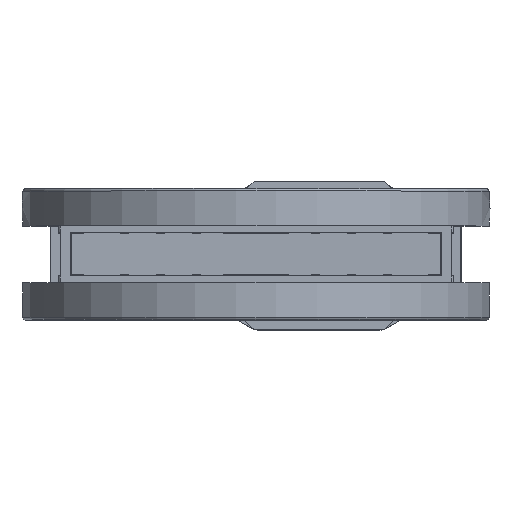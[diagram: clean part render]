
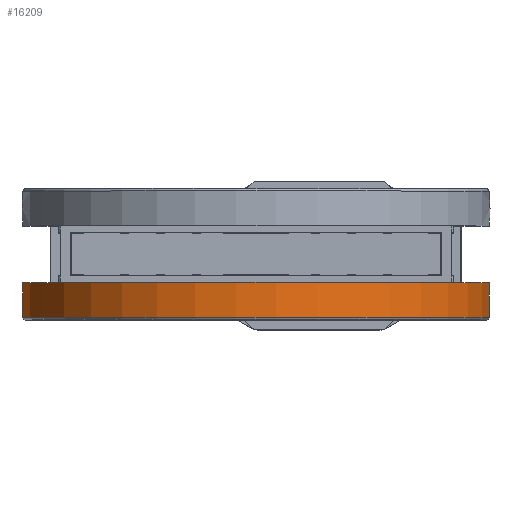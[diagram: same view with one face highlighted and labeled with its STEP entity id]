
A CAD part, top view. The second image highlights one B-rep face of the part: STEP entity #16209.
In plain terms, the highlighted cylindrical face has radius 142.5 mm (diameter 285 mm), a full revolution.
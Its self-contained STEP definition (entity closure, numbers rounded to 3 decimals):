
#16209=ADVANCED_FACE('BCT_REF_56374',(#17732,#17733),#17299,.T.);
#17299=CYLINDRICAL_SURFACE('',#37225,142.5);
#17732=FACE_BOUND('',#19321,.T.);
#17733=FACE_BOUND('',#19322,.T.);
#19321=EDGE_LOOP('',(#24243));
#19322=EDGE_LOOP('',(#24244));
#24243=ORIENTED_EDGE('',*,*,#33480,.F.);
#24244=ORIENTED_EDGE('',*,*,#33486,.T.);
#30050=VERTEX_POINT('',#50145);
#30056=VERTEX_POINT('',#50162);
#33480=EDGE_CURVE('',#30050,#30050,#35899,.T.);
#33486=EDGE_CURVE('',#30056,#30056,#35905,.T.);
#35899=CIRCLE('',#37212,142.5);
#35905=CIRCLE('',#37223,142.5);
#37212=AXIS2_PLACEMENT_3D('',#50144,#41660,#41661);
#37223=AXIS2_PLACEMENT_3D('',#50161,#41682,#41683);
#37225=AXIS2_PLACEMENT_3D('',#50164,#41686,#41687);
#41660=DIRECTION('',(0.,-1.,0.));
#41661=DIRECTION('',(0.966,0.,-0.259));
#41682=DIRECTION('',(0.,-1.,0.));
#41683=DIRECTION('',(0.966,0.,-0.259));
#41686=DIRECTION('',(0.,-1.,0.));
#41687=DIRECTION('',(0.966,0.,-0.259));
#50144=CARTESIAN_POINT('',(0.,-38.425,412.));
#50145=CARTESIAN_POINT('',(137.644,-38.425,375.118));
#50161=CARTESIAN_POINT('',(0.,-17.225,412.));
#50162=CARTESIAN_POINT('',(137.644,-17.225,375.118));
#50164=CARTESIAN_POINT('',(0.,-39.925,412.));
